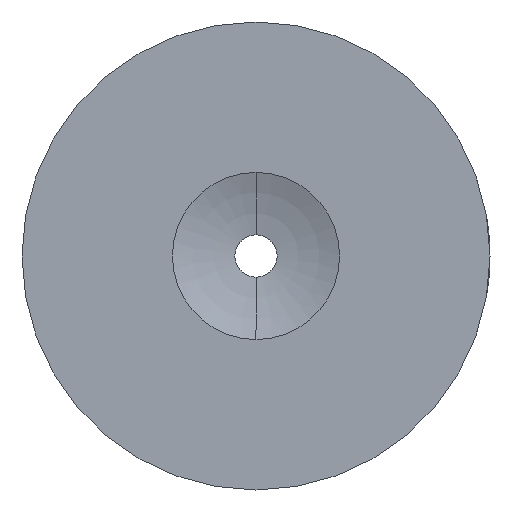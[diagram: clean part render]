
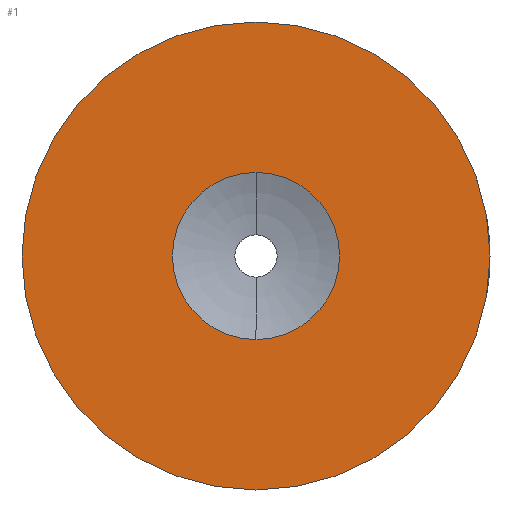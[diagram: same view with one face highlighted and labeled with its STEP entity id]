
A CAD part, left-side view. The second image highlights one B-rep face of the part: STEP entity #1.
In plain terms, the highlighted planar face has unit normal (-1, 0, 0).
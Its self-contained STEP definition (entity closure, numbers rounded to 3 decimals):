
#1 = ADVANCED_FACE ( 'NONE', ( #164, #63 ), #126, .F. ) ;
#8 = DIRECTION ( 'NONE',  ( 0., 0., 1. ) ) ;
#41 = CARTESIAN_POINT ( 'NONE',  ( 0., 0., 0. ) ) ;
#45 = CARTESIAN_POINT ( 'NONE',  ( 0., 0., 0. ) ) ;
#63 = FACE_OUTER_BOUND ( 'NONE', #522, .T. ) ;
#103 = CARTESIAN_POINT ( 'NONE',  ( 0., 0., 0. ) ) ;
#109 = AXIS2_PLACEMENT_3D ( 'NONE', #41, #492, #526 ) ;
#113 = CIRCLE ( 'NONE', #205, 14. ) ;
#121 = ORIENTED_EDGE ( 'NONE', *, *, #137, .F. ) ;
#126 = PLANE ( 'NONE',  #269 ) ;
#137 = EDGE_CURVE ( 'NONE', #493, #396, #413, .T. ) ;
#139 = DIRECTION ( 'NONE',  ( 0., 0., 1. ) ) ;
#145 = CARTESIAN_POINT ( 'NONE',  ( 0., 0., -14. ) ) ;
#146 = DIRECTION ( 'NONE',  ( 0., 0., -1. ) ) ;
#154 = AXIS2_PLACEMENT_3D ( 'NONE', #45, #345, #348 ) ;
#164 = FACE_BOUND ( 'NONE', #168, .T. ) ;
#165 = EDGE_CURVE ( 'NONE', #396, #493, #515, .T. ) ;
#166 = ORIENTED_EDGE ( 'NONE', *, *, #165, .F. ) ;
#168 = EDGE_LOOP ( 'NONE', ( #121, #166 ) ) ;
#180 = ORIENTED_EDGE ( 'NONE', *, *, #261, .T. ) ;
#197 = CARTESIAN_POINT ( 'NONE',  ( 0., 1.25, 0. ) ) ;
#204 = DIRECTION ( 'NONE',  ( 1., 0., 0. ) ) ;
#205 = AXIS2_PLACEMENT_3D ( 'NONE', #313, #539, #139 ) ;
#233 = ORIENTED_EDGE ( 'NONE', *, *, #310, .T. ) ;
#253 = AXIS2_PLACEMENT_3D ( 'NONE', #103, #383, #8 ) ;
#261 = EDGE_CURVE ( 'NONE', #346, #511, #113, .T. ) ;
#266 = CARTESIAN_POINT ( 'NONE',  ( 0., 0., 5. ) ) ;
#269 = AXIS2_PLACEMENT_3D ( 'NONE', #197, #204, #146 ) ;
#289 = CIRCLE ( 'NONE', #109, 14. ) ;
#310 = EDGE_CURVE ( 'NONE', #511, #346, #289, .T. ) ;
#313 = CARTESIAN_POINT ( 'NONE',  ( 0., 0., 0. ) ) ;
#345 = DIRECTION ( 'NONE',  ( -1., 0., 0. ) ) ;
#346 = VERTEX_POINT ( 'NONE', #145 ) ;
#348 = DIRECTION ( 'NONE',  ( 0., 0., 1. ) ) ;
#383 = DIRECTION ( 'NONE',  ( -1., 0., 0. ) ) ;
#396 = VERTEX_POINT ( 'NONE', #501 ) ;
#413 = CIRCLE ( 'NONE', #253, 5. ) ;
#492 = DIRECTION ( 'NONE',  ( -1., 0., 0. ) ) ;
#493 = VERTEX_POINT ( 'NONE', #266 ) ;
#501 = CARTESIAN_POINT ( 'NONE',  ( 0., 0., -5. ) ) ;
#511 = VERTEX_POINT ( 'NONE', #532 ) ;
#515 = CIRCLE ( 'NONE', #154, 5. ) ;
#522 = EDGE_LOOP ( 'NONE', ( #233, #180 ) ) ;
#526 = DIRECTION ( 'NONE',  ( 0., 0., 1. ) ) ;
#532 = CARTESIAN_POINT ( 'NONE',  ( 0., 0., 14. ) ) ;
#539 = DIRECTION ( 'NONE',  ( -1., 0., 0. ) ) ;
